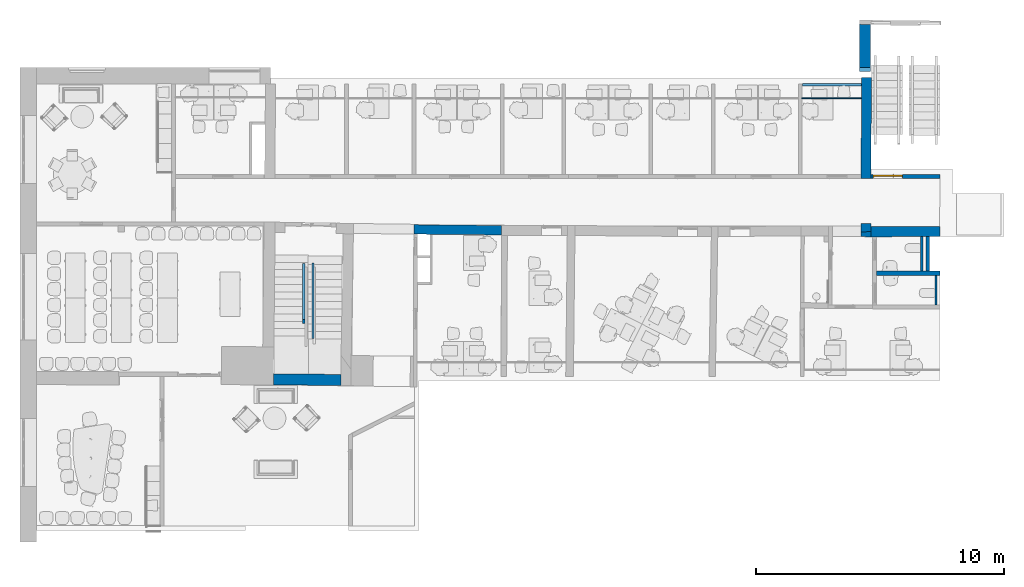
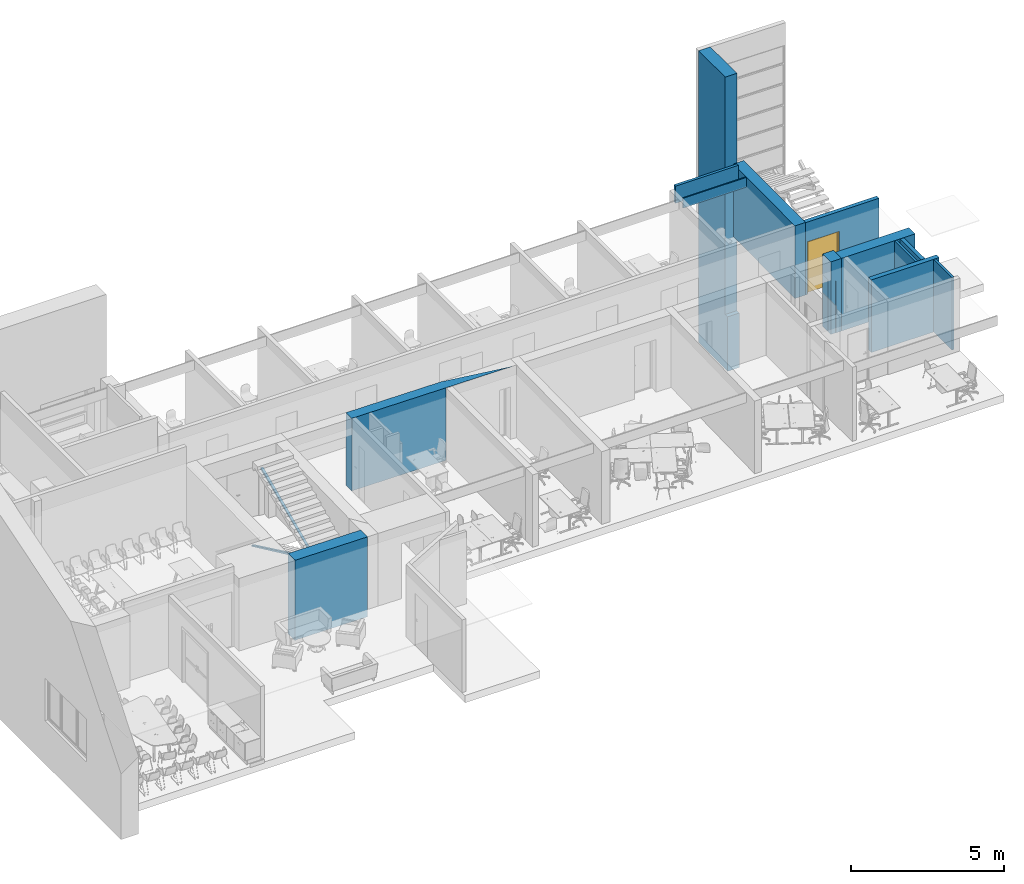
# One storey, part 7 of 19: 16 walls, 1 door, 2 openings.
"""IFC2X3 building model written with IfcOpenShell, lengths in millimetres."""

from ifc_helpers import new_model, entity, si_unit, converted_unit, derived_unit, direction, frame, frame_2d, origin, place, context, subcontext, project, spatial, polyline, rectangle, outline, extrude, clip, bounded_halfspace, faceted_brep, source, transform, mapped, material, material_list, layer, layer_set, layer_usage, type_object, type_shapes, element, fill, save


model = new_model("IFC2X3")

# Units and contexts
model_context = context("Model", 3, precision=0.01, world=origin(), true_north=direction((6.12303176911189e-17, 1.0)))
context_of_model = context(None, 3, precision=0.01, world=origin(), true_north=direction((6.12303176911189e-17, 1.0)))
body_context = subcontext(model_context, "Body", "Model", "MODEL_VIEW")
ifc_project = project(units=[si_unit("LENGTHUNIT", "METRE", prefix="MILLI"), si_unit("AREAUNIT", "SQUARE_METRE"), si_unit("VOLUMEUNIT", "CUBIC_METRE"), converted_unit("PLANEANGLEUNIT", "DEGREE", entity("IfcRatioMeasure", 0.0174532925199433), si_unit("PLANEANGLEUNIT", "RADIAN"), dimensions=[0, 0, 0, 0, 0, 0, 0]), si_unit("MASSUNIT", "GRAM", prefix="KILO"), derived_unit("MASSDENSITYUNIT", [(si_unit("MASSUNIT", "GRAM", prefix="KILO"), 1), (si_unit("LENGTHUNIT", "METRE"), -3)]), si_unit("TIMEUNIT", "SECOND"), si_unit("FREQUENCYUNIT", "HERTZ"), si_unit("THERMODYNAMICTEMPERATUREUNIT", "DEGREE_CELSIUS"), derived_unit("THERMALTRANSMITTANCEUNIT", [(si_unit("MASSUNIT", "GRAM", prefix="KILO"), 1), (si_unit("THERMODYNAMICTEMPERATUREUNIT", "KELVIN"), -1), (si_unit("TIMEUNIT", "SECOND"), -3)]), derived_unit("VOLUMETRICFLOWRATEUNIT", [(si_unit("LENGTHUNIT", "METRE"), 3), (si_unit("TIMEUNIT", "SECOND"), -1)]), si_unit("ELECTRICCURRENTUNIT", "AMPERE"), si_unit("ELECTRICVOLTAGEUNIT", "VOLT"), si_unit("POWERUNIT", "WATT"), si_unit("FORCEUNIT", "NEWTON", prefix="KILO"), si_unit("ILLUMINANCEUNIT", "LUX"), si_unit("LUMINOUSFLUXUNIT", "LUMEN"), si_unit("LUMINOUSINTENSITYUNIT", "CANDELA"), derived_unit("USERDEFINED", [(si_unit("MASSUNIT", "GRAM", prefix="KILO"), -1), (si_unit("LENGTHUNIT", "METRE"), -2), (si_unit("TIMEUNIT", "SECOND"), 3), (si_unit("LUMINOUSFLUXUNIT", "LUMEN"), 1)]), derived_unit("LINEARVELOCITYUNIT", [(si_unit("LENGTHUNIT", "METRE"), 1), (si_unit("TIMEUNIT", "SECOND"), -1)]), si_unit("PRESSUREUNIT", "PASCAL"), derived_unit("USERDEFINED", [(si_unit("LENGTHUNIT", "METRE"), -2), (si_unit("MASSUNIT", "GRAM", prefix="KILO"), 1), (si_unit("TIMEUNIT", "SECOND"), -2)])], contexts=[model_context, context_of_model])

# Site, building, storey
site_placement = place(None, frame((121442.264707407, 135347.995453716, -1800.0)))
site = spatial("IfcSite", under=ifc_project, at=site_placement, Name="Surface", CompositionType="ELEMENT")
building_placement = place(site_placement, origin())
building = spatial("IfcBuilding", under=site, at=building_placement, CompositionType="ELEMENT")
storey_placement = place(building_placement, frame((0.0, 0.0, 5125.0)))
storey = spatial("IfcBuildingStorey", under=building, at=storey_placement, Name="2 korrus", CompositionType="ELEMENT", Elevation=5125.00000000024)

# Wall
ifc_material_1 = material(Name="__Betoonelement")
ifc_layer_1 = layer(ifc_material_1, 400.0)
ifc_layer_set_1 = layer_set([ifc_layer_1], Name="Basic Wall:40_Betoon")
ifc_layer_usage_1 = layer_usage(ifc_layer_set_1, "AXIS2", "POSITIVE", -200.0)
wall_type_1 = type_object("IfcWallType", Name="Basic Wall:40_Betoon", PredefinedType="STANDARD", material=ifc_layer_set_1)
wall_1_placement = place(storey_placement, frame((-85485.5125478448, -115084.383582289, 0.0), z_axis=(0.0, 0.0, 1.0), x_axis=(-0.00513543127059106, -0.999986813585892, 0.0)))
element("IfcWallStandardCase", 1, at=wall_1_placement, inside=storey, type_object=wall_type_1, material=ifc_layer_usage_1, Name="Basic Wall:40_Betoon", ObjectType="Basic Wall:40_Betoon", context=body_context, shape_type="Clipping", body=[
    clip(extrude(outline(polyline([(4066.03431653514, -200.0), (4063.98011693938, 200.0), (0.0, 200.0), (0.0, -200.0), (4066.03431653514, -200.0)])), origin(), (0.0, 0.0, 1.0), 2897.0), bounded_halfspace(frame((4066.03431653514, -200.0, 2897.0), z_axis=(0.0, 0.0, -1.0), x_axis=(0.999986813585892, 0.00513543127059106, 0.0)), True, frame((4066.03431653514, -200.0, 2897.0)), polyline([(0.0, 0.0), (-0.157216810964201, 30.6137361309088), (-2.05419959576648, 400.0), (-230.225232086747, 400.0), (-228.322231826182, 29.4419949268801), (-4066.03431653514, 9.73342839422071), (-4066.03431653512, 0.0), (0.0, 0.0)]))),
])

# Wall, opening
ifc_layer_usage_2 = layer_usage(ifc_layer_set_1, "AXIS2", "NEGATIVE", 200.0)
wall_2_placement = place(storey_placement, frame((-85511.0476430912, -121509.356751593, 0.0), z_axis=(0.0, 0.0, 1.0), x_axis=(-0.00340942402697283, 0.999994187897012, 0.0)))
wall_2 = element("IfcWallStandardCase", 2, at=wall_2_placement, inside=storey, type_object=wall_type_1, material=ifc_layer_usage_2, Name="Basic Wall:40_Betoon", ObjectType="Basic Wall:40_Betoon", context=body_context, shape_type="Clipping", body=[
    clip(extrude(rectangle(XDim=535.000000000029, YDim=399.999999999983, at=frame_2d((267.500000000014, 1.23634436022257e-12), x_axis=(-1.0, 0.0))), origin(), (0.0, 0.0, 1.0), 2897.0), bounded_halfspace(frame((0.0, -200.0, 2897.0), z_axis=(0.0, 0.0, -1.0), x_axis=(-0.999994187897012, 0.00340942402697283, 0.0)), True, frame((0.0, -200.0, 2897.0)), polyline([(0.0, 0.0), (410.0, 0.0), (535.0, 0.0), (535.0, 400.0), (0.0, 400.0), (0.0, 0.0)]))),
])
opening_1_placement = place(wall_2_placement, origin())
element("IfcOpeningElement", 3, at=opening_1_placement, cuts=wall_2, Name="Basic Wall:40_Betoon", ObjectType="Recess", context=body_context, shape_type="SweptSolid", body=[
    extrude(rectangle(XDim=2069.99999999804, YDim=650.000000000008, at=frame_2d((-5.6843418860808e-13, 8.66862137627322e-12), x_axis=(1.0, 0.0))), frame((-317.343795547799, 17.3985168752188, 1032.49999999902), z_axis=(0.00340942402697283, 0.999994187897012, 0.0), x_axis=(0.0, 0.0, 1.0)), (0.0, 0.0, 1.0), 179.999999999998),
])

# Walls
ifc_layer_usage_3 = layer_usage(ifc_layer_set_1, "AXIS2", "NEGATIVE", 200.0)
wall_3_placement = place(storey_placement, frame((-85511.7465750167, -121304.357943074, 0.0), z_axis=(0.0, 0.0, 1.0), x_axis=(-0.00340942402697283, 0.999994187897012, 0.0)))
element("IfcWallStandardCase", 4, at=wall_3_placement, inside=storey, type_object=wall_type_1, material=ifc_layer_usage_3, Name="Basic Wall:40_Betoon", ObjectType="Basic Wall:40_Betoon", context=body_context, shape_type="SweptSolid", body=[
    extrude(rectangle(XDim=330.000000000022, YDim=399.999999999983, at=frame_2d((165.000000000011, 6.01119154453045e-12), x_axis=(-1.0, 0.0))), origin(), (0.0, 0.0, 1.0), 2067.49999999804),
])
ifc_material_2 = material(Name="NCS S 2570-R Syvä punainen, matta, ruisku")
ifc_material_list = material_list([ifc_material_2, ifc_material_1])
wall_type_2 = type_object("IfcWallType", Name="Basic Wall:44_Betoon", PredefinedType="NOTDEFINED")
wall_4_placement = place(storey_placement, frame((-85538.0641696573, -114839.161413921, -5495.57195566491), z_axis=(0.0, 0.0, 1.0), x_axis=(0.0, 1.0, 0.0)))
element("IfcWall", 5, at=wall_4_placement, inside=storey, type_object=wall_type_2, material=ifc_material_list, Name="Basic Wall:44_Betoon", ObjectType="Basic Wall:44_Betoon", context=body_context, shape_type="Brep", body=[
    faceted_brep([(0.0, -220.500000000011, 2170.57195566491), (0.0, -220.500000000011, 0.0), (1891.50825939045, -220.500000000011, 0.0), (1891.50825939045, -220.500000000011, 11640.6280282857), (157.24230158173, -220.500000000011, 11640.6280282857), (157.24230158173, -220.500000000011, 11026.2397991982), (157.24230158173, -220.500000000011, 5202.57195566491), (157.24230158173, -220.500000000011, 2170.57195566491), (0.0, 220.499999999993, 0.0), (0.0, 220.499999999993, 2170.57195566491), (157.24230158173, 220.499999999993, 2170.57195566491), (157.24230158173, 220.499999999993, 11640.6280282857), (1896.23794541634, 220.499999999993, 11640.6280282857), (1896.23794541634, 220.499999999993, 11638.0340480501), (1896.23794541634, 220.499999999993, 0.0), (157.24230158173, -220.08965099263, 2170.57195566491), (157.24230158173, 205.913091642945, 2170.57195566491), (0.0, 205.913091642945, 2170.57195566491)], [[[0, 1, 2, 3, 4, 5, 6, 7]], [[8, 9, 10, 11, 12, 13, 14]], [[2, 1, 8, 14]], [[4, 3, 12, 11]], [[2, 14, 13, 12, 3]], [[7, 15, 16, 10, 9, 17, 0]], [[0, 17, 9, 8, 1]], [[4, 11, 10, 16, 15, 7, 6, 5]]]),
])
ifc_layer_2 = layer(ifc_material_1, 410.0)
ifc_layer_set_2 = layer_set([ifc_layer_2], Name="Basic Wall:41_Betoon 2")
ifc_layer_usage_4 = layer_usage(ifc_layer_set_2, "AXIS2", "NEGATIVE", 205.0)
wall_type_3 = type_object("IfcWallType", Name="Basic Wall:41_Betoon 2", PredefinedType="STANDARD", material=ifc_layer_set_2)
wall_5_placement = place(storey_placement, frame((-82525.2814481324, -121294.175757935, 0.0), z_axis=(0.0, 0.0, 1.0), x_axis=(-0.999994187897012, -0.00340942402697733, 0.0)))
element("IfcWallStandardCase", 6, at=wall_5_placement, inside=storey, type_object=wall_type_3, material=ifc_layer_usage_4, Name="Basic Wall:41_Betoon 2", ObjectType="Basic Wall:41_Betoon 2", context=body_context, shape_type="Clipping", body=[
    clip(extrude(outline(polyline([(2786.48248462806, -205.0), (2786.48248462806, 205.0), (1.3978719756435, 205.0), (0.0, -205.0), (2786.48248462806, -205.0)])), origin(), (0.0, 0.0, 1.0), 2897.0), bounded_halfspace(frame((0.0, -205.0, 2897.0), z_axis=(0.0, 0.0, -1.0), x_axis=(0.00340942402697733, 0.999994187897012, 0.0)), True, frame((0.0, -205.0, 2897.0)), polyline([(0.0, 0.0), (2786.48248462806, 0.0), (2786.48248462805, 410.0), (1.39787197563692, 410.0), (0.0, 0.0)]))),
])
ifc_layer_3 = layer(ifc_material_1, 380.0)
ifc_layer_set_3 = layer_set([ifc_layer_3], Name="Basic Wall:38_Betoon 2")
wall_type_4 = type_object("IfcWallType", Name="Basic Wall:38_Betoon 2", PredefinedType="STANDARD", material=ifc_layer_set_3)
wall_6_placement = place(storey_placement, frame((-97714.9033557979, -121262.43313085, 0.0), z_axis=(0.0, 0.0, 1.0), x_axis=(-0.999962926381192, 0.00861079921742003, 0.0)))
element("IfcWall", 7, at=wall_6_placement, inside=storey, type_object=wall_type_4, Name="Basic Wall:38_Betoon 2", ObjectType="Basic Wall:38_Betoon 2", context=body_context, shape_type="Brep", body=[
    faceted_brep([(2471.56004318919, -190.0, 0.0), (6013.6683213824, -190.0, 0.0), (6013.6683213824, -190.0, 2897.0), (2456.96813620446, -190.0, 2897.0), (2456.96813620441, -190.0, 2890.0), (2471.56004318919, -190.0, 2890.0), (2470.30259338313, 190.0, 0.0), (2470.30259338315, 190.0, 2890.0), (0.0, 190.0, 2890.0), (0.0, 190.0, 2897.0), (5861.69806417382, 190.0, 2897.0), (6011.70007627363, 190.0, 2897.0), (6011.70007627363, 190.0, 0.0)], [[[0, 1, 2, 3, 4, 5]], [[6, 7, 8, 9, 10, 11, 12]], [[1, 0, 6, 12]], [[2, 1, 12, 11]], [[4, 8, 7, 5]], [[0, 5, 7, 6]], [[4, 3, 9, 8]], [[3, 2, 11, 10, 9]]]),
])
ifc_layer_4 = layer(ifc_material_1, 180.0)
ifc_layer_set_4 = layer_set([ifc_layer_4], Name="Basic Wall:18_Betoon 3")
ifc_layer_usage_5 = layer_usage(ifc_layer_set_4, "AXIS2", "POSITIVE", -90.0)
wall_type_5 = type_object("IfcWallType", Name="Basic Wall:18_Betoon 3", PredefinedType="STANDARD", material=ifc_layer_set_4)
wall_7_placement = place(storey_placement, frame((-82525.9803800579, -122972.367067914, 0.0), z_axis=(0.0, 0.0, 1.0), x_axis=(-1.0, 0.0, 0.0)))
element("IfcWallStandardCase", 8, at=wall_7_placement, inside=storey, type_object=wall_type_5, material=ifc_layer_usage_5, Name="Basic Wall:18_Betoon 3", ObjectType="Basic Wall:18_Betoon 3", context=body_context, shape_type="Clipping", body=[
    clip(extrude(rectangle(XDim=2559.55635023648, YDim=179.999999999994, at=frame_2d((1279.77817511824, 0.0), x_axis=(-1.0, 0.0))), origin(), (0.0, 0.0, 1.0), 2897.0), bounded_halfspace(frame((520.0, -90.0, 2897.0), z_axis=(0.0, 0.0, -1.0), x_axis=(0.0, 1.0, 0.0)), True, frame((520.0, -90.0, 2897.0)), polyline([(0.0, 0.0), (2039.55635023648, 0.0), (2039.55635023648, 180.0), (0.0, 180.0), (-520.0, 180.0), (-520.0, 150.748650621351), (0.0, 150.748650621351), (0.0, 0.0)]))),
])
ifc_layer_5 = layer(ifc_material_1, 450.0)
ifc_layer_set_5 = layer_set([ifc_layer_5], Name="Basic Wall:45_Betoon")
wall_type_6 = type_object("IfcWallType", Name="Basic Wall:45_Betoon", PredefinedType="STANDARD", material=ifc_layer_set_5)
wall_8_placement = place(storey_placement, frame((-109379.592492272, -127250.961713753, -307.126025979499), z_axis=(0.0, 0.0, 1.0), x_axis=(0.999951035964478, -0.00989574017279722, 0.0)))
element("IfcWall", 9, at=wall_8_placement, inside=storey, type_object=wall_type_6, Name="Basic Wall:45_Betoon", ObjectType="Basic Wall:45_Betoon", context=body_context, shape_type="Brep", body=[
    faceted_brep([(0.0, -225.0, 3204.1260259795), (0.0, -225.0, 3197.1260259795), (0.0, -225.0, 0.0), (88.8062412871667, -225.0, 0.0), (88.8062412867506, -225.0, 14.1260259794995), (2722.36429015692, -225.0, 14.126025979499), (2722.36429015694, -225.0, 307.126025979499), (2722.36429015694, -225.0, 3197.1260259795), (2722.36429015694, -225.0, 3204.1260259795), (2717.91098902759, 225.0, 0.0), (0.323698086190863, 225.0, 0.0), (0.323698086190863, 225.0, 3204.1260259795), (2717.91098902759, 225.0, 3204.1260259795), (2718.45468304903, 170.06046132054, 0.0), (85.1386676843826, 145.603306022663, 0.0), (0.244563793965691, 114.988748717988, 3204.1260259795), (0.290677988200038, 179.095977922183, 3204.1260259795), (2718.73344916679, 141.891525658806, 3204.1260259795), (2718.09909626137, 205.992020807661, 3204.1260259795), (2718.45468304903, 170.06046132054, 14.126025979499), (85.1386676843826, 145.603306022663, 14.126025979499), (86.5795907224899, 0.0, 14.126025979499), (2720.13763959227, 0.0, 14.126025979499)], [[[0, 1, 2, 3, 4, 5, 6, 7, 8]], [[9, 10, 11, 12]], [[10, 9, 13, 14, 3, 2]], [[2, 1, 0, 15, 16, 11, 10]], [[12, 11, 16, 15, 17, 18]], [[0, 8, 17, 15]], [[19, 20, 14, 13]], [[21, 22, 5, 4]], [[21, 20, 19, 22]], [[20, 21, 4, 3, 14]], [[9, 12, 18, 17, 8, 7, 6, 5, 22, 19, 13]]]),
])
ifc_layer_6 = layer(ifc_material_1, 100.0)
ifc_layer_set_6 = layer_set([ifc_layer_6], Name="Basic Wall:10_Betoon")
ifc_layer_usage_6 = layer_usage(ifc_layer_set_6, "AXIS2", "NEGATIVE", 50.0)
wall_type_7 = type_object("IfcWallType", Name="Basic Wall:10_Betoon", PredefinedType="STANDARD", material=ifc_layer_set_6)
wall_9_placement = place(storey_placement, frame((-88058.8585743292, -115371.920628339, 2365.0)))
element("IfcWallStandardCase", 10, at=wall_9_placement, inside=storey, type_object=wall_type_7, material=ifc_layer_usage_6, Name="Basic Wall:10_Betoon", ObjectType="Basic Wall:10_Betoon", context=body_context, shape_type="SweptSolid", body=[
    extrude(outline(polyline([(2371.60996800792, -50.0), (2372.12351790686, 50.0), (0.0, 50.0), (0.0, -50.0), (2371.60996800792, -50.0)])), origin(), (0.0, 0.0, 1.0), 685.0),
])

# Wall, opening, door
ifc_material_3 = material(Name="Plaster")
ifc_layer_7 = layer(ifc_material_3, 10.0)
ifc_material_4 = material(Name="EST. Müüritis. Väikeplokk. Kergkruusplokk")
ifc_layer_8 = layer(ifc_material_4, 130.0)
ifc_layer_9 = layer(ifc_material_3, 10.0)
ifc_layer_set_7 = layer_set([ifc_layer_7, ifc_layer_8, ifc_layer_9], Name="Basic Wall:15_FIBO")
ifc_layer_usage_7 = layer_usage(ifc_layer_set_7, "AXIS2", "POSITIVE", -75.0)
wall_type_8 = type_object("IfcWallType", Name="Basic Wall:15_FIBO", PredefinedType="STANDARD", material=ifc_layer_set_7)
wall_10_placement = place(storey_placement, frame((-85306.3831680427, -119073.887841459, 0.0)))
wall_10 = element("IfcWallStandardCase", 11, at=wall_10_placement, inside=storey, type_object=wall_type_8, material=ifc_layer_usage_7, Name="Basic Wall:15_FIBO", ObjectType="Basic Wall:15_FIBO", context=body_context, shape_type="SweptSolid", body=[
    extrude(outline(polyline([(0.0, -75.0), (2780.40278798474, -75.0), (2780.40278798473, 75.0), (0.770324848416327, 75.0), (0.0, -75.0)])), origin(), (0.0, 0.0, 1.0), 2890.0),
])
opening_2_placement = place(wall_10_placement, frame((80.4027879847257, -75.0, 0.0)))
opening_2 = element("IfcOpeningElement", 12, at=opening_2_placement, cuts=wall_10, Name="sma_D02:1200 x 2100mm SU-11 Tuletokke:1", ObjectType="Opening", context=body_context, shape_type="SweptSolid", body=[
    extrude(rectangle(XDim=2099.99999999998, YDim=1200.0, at=frame_2d((1049.99999999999, 600.000000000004), x_axis=(1.0, 0.0))), frame((0.0, 0.0, 0.0), z_axis=(0.0, 1.0, 0.0), x_axis=(0.0, 0.0, 1.0)), (0.0, 0.0, 1.0), 150.0),
])
ifc_material_5 = material(Name="Metal - Aluminium")
door_style = type_object("IfcDoorStyle", Name="1200 x 2100mm SU-11 Tuletokke", ConstructionType="NOTDEFINED", OperationType="NOTDEFINED", ParameterTakesPrecedence=False, Sizeable=False, material=ifc_material_5)
shared_shape = source(origin(), body_context, "Body", "Brep", [
    faceted_brep([(745.260051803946, 40.0, 1100.0), (650.260051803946, 40.0, 1100.0), (650.260051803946, 35.0, 1100.0), (770.260051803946, 35.0, 1100.0), (770.260051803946, 78.0, 1100.0), (745.260051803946, 78.0, 1100.0), (745.260051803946, 40.0, 1075.0), (745.260051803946, 78.0, 1075.0), (770.260051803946, 78.0, 1075.0), (770.260051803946, 35.0, 1075.0), (650.260051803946, 35.0, 1075.0), (650.260051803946, 40.0, 1075.0)], [[[0, 1, 2, 3, 4, 5]], [[6, 7, 8, 9, 10, 11]], [[5, 7, 6, 0]], [[4, 8, 7, 5]], [[3, 9, 8, 4]], [[2, 10, 9, 3]], [[1, 11, 10, 2]], [[0, 6, 11, 1]]]),
    faceted_brep([(732.760051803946, 78.0, 1125.0), (782.760051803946, 78.0, 1125.0), (782.760051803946, 80.0, 1125.0), (732.760051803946, 80.0, 1125.0), (732.760051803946, 78.0, 1005.0), (732.760051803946, 80.0, 1005.0), (782.760051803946, 80.0, 1005.0), (782.760051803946, 78.0, 1005.0)], [[[0, 1, 2, 3]], [[4, 5, 6, 7]], [[3, 5, 4, 0]], [[2, 6, 5, 3]], [[1, 7, 6, 2]], [[0, 4, 7, 1]]]),
    faceted_brep([(745.260051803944, 170.0, 1100.0), (745.260051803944, 132.0, 1100.0), (770.260051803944, 132.0, 1100.0), (770.260051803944, 175.0, 1100.0), (650.260051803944, 175.0, 1100.0), (650.260051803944, 170.0, 1100.0), (745.260051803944, 170.0, 1075.0), (650.260051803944, 170.0, 1075.0), (650.260051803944, 175.0, 1075.0), (770.260051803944, 175.0, 1075.0), (770.260051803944, 132.0, 1075.0), (745.260051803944, 132.0, 1075.0)], [[[0, 1, 2, 3, 4, 5]], [[6, 7, 8, 9, 10, 11]], [[1, 0, 6, 11]], [[2, 1, 11, 10]], [[3, 2, 10, 9]], [[4, 3, 9, 8]], [[5, 4, 8, 7]], [[0, 5, 7, 6]]]),
    faceted_brep([(732.760051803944, 132.0, 1125.0), (732.760051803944, 130.0, 1125.0), (782.760051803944, 130.0, 1125.0), (782.760051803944, 132.0, 1125.0), (732.760051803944, 132.0, 1005.0), (782.760051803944, 132.0, 1005.0), (782.760051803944, 130.0, 1005.0), (732.760051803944, 130.0, 1005.0)], [[[0, 1, 2, 3]], [[4, 5, 6, 7]], [[1, 0, 4, 7]], [[2, 1, 7, 6]], [[3, 2, 6, 5]], [[0, 3, 5, 4]]]),
    faceted_brep([(-67.2399481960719, 40.0, 0.0), (-67.2399481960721, 130.0, 0.0), (-42.2399481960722, 130.0, 0.0), (-42.239948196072, 80.0, 0.0), (-27.239948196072, 80.0, 0.0), (-27.2399481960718, 40.0, 0.0), (-27.2399481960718, 40.0, 2060.0), (1092.76005180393, 40.0, 2060.0), (1092.76005180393, 40.0, 0.0), (1132.76005180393, 40.0, 0.0), (1132.76005180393, 40.0, 2100.0), (-67.2399481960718, 40.0, 2100.0), (-27.2399481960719, 80.0, 2060.0), (-42.2399481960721, 80.0, 2075.0), (1107.76005180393, 80.0, 2075.0), (1107.76005180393, 80.0, 0.0), (1092.76005180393, 80.0, 0.0), (1092.76005180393, 80.0, 2060.0), (-42.239948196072, 130.0, 2075.0), (-67.2399481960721, 130.0, 2100.0), (1132.76005180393, 130.0, 2100.0), (1132.76005180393, 130.0, 0.0), (1107.76005180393, 130.0, 0.0), (1107.76005180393, 130.0, 2075.0)], [[[0, 1, 2, 3, 4, 5]], [[5, 6, 7, 8, 9, 10, 11, 0]], [[4, 12, 6, 5]], [[3, 13, 14, 15, 16, 17, 12, 4]], [[2, 18, 13, 3]], [[1, 19, 20, 21, 22, 23, 18, 2]], [[0, 11, 19, 1]], [[10, 9, 21, 20]], [[9, 8, 16, 15, 22, 21]], [[17, 16, 8, 7]], [[23, 22, 15, 14]], [[12, 17, 7, 6]], [[18, 23, 14, 13]], [[11, 10, 20, 19]]]),
    faceted_brep([(1107.76005180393, 80.0, 20.0), (1107.76005180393, 80.0, 2075.0), (832.760051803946, 80.0, 2075.0), (832.760051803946, 80.0, 20.0), (1107.76005180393, 130.0, 20.0), (832.760051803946, 130.0, 20.0), (832.760051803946, 130.0, 2075.0), (1107.76005180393, 130.0, 2075.0)], [[[0, 1, 2, 3]], [[4, 5, 6, 7]], [[3, 5, 4, 0]], [[2, 6, 5, 3]], [[1, 7, 6, 2]], [[0, 4, 7, 1]]]),
    faceted_brep([(832.760051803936, 80.0, 2075.0), (-42.2399481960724, 80.0, 2075.0), (-42.2399481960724, 80.0, 20.0), (832.760051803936, 80.0, 20.0), (832.760051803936, 130.0, 2075.0), (832.760051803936, 130.0, 20.0), (-42.2399481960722, 130.0, 20.0), (-42.2399481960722, 130.0, 2075.0)], [[[0, 1, 2, 3]], [[4, 5, 6, 7]], [[3, 5, 4, 0]], [[2, 6, 5, 3]], [[1, 7, 6, 2]], [[0, 4, 7, 1]]]),
])
type_shapes(door_style, [shared_shape])
door_placement = place(opening_2_placement, frame((67.2399481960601, 0.0, 0.0)))
door = element("IfcDoor", 13, at=door_placement, inside=storey, type_object=door_style, material=ifc_material_5, Name="sma_D02:1200 x 2100mm SU-11 Tuletokke", ObjectType="1200 x 2100mm SU-11 Tuletokke", OverallHeight=2099.99999999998, OverallWidth=1200.0, context=body_context, shape_type="MappedRepresentation", body=[
    mapped(shared_shape, transform((0.0, 0.0, 0.0), scale=1.0)),
])
fill(opening_2, door)

# Walls
ifc_layer_usage_8 = layer_usage(ifc_layer_set_7, "AXIS2", "NEGATIVE", 75.0)
wall_11_placement = place(storey_placement, frame((-83020.980380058, -121500.611298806, 0.0), z_axis=(0.0, 0.0, 1.0), x_axis=(0.0, -1.0, 0.0)))
element("IfcWallStandardCase", 14, at=wall_11_placement, inside=storey, type_object=wall_type_8, material=ifc_layer_usage_8, Name="Basic Wall:15_FIBO", ObjectType="Basic Wall:15_FIBO", context=body_context, shape_type="SweptSolid", body=[
    extrude(outline(polyline([(1381.75576910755, -75.0), (1381.75576910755, 75.0), (0.0, 75.0), (0.511416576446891, -75.0), (1381.75576910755, -75.0)])), origin(), (0.0, 0.0, 1.0), 2890.0),
])
ifc_material_6 = material(Name="Metal - Stud Layer")
ifc_layer_10 = layer(ifc_material_6, 30.0)
ifc_material_7 = material(Name="Gypsum Wall Board")
ifc_layer_11 = layer(ifc_material_7, 13.0)
ifc_layer_set_8 = layer_set([ifc_layer_10, ifc_layer_11], Name="Basic Wall:Kipssirm 1 kordne")
ifc_layer_usage_9 = layer_usage(ifc_layer_set_8, "AXIS2", "POSITIVE", -21.5)
wall_type_9 = type_object("IfcWallType", Name="Basic Wall:Kipssirm 1 kordne", PredefinedType="STANDARD", material=ifc_layer_set_8)
wall_12_placement = place(storey_placement, frame((-88085.7565439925, -115928.952432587, 2500.0)))
element("IfcWallStandardCase", 15, at=wall_12_placement, inside=storey, type_object=wall_type_9, material=ifc_layer_usage_9, Name="Basic Wall:Kipssirm 1 kordne", ObjectType="Basic Wall:Kipssirm 1 kordne", context=body_context, shape_type="SweptSolid", body=[
    extrude(outline(polyline([(2395.79366312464, -21.5000000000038), (2396.01448958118, 21.5000000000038), (0.0, 21.5000000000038), (0.0, -21.5000000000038), (2395.79366312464, -21.5000000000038)])), origin(), (0.0, 0.0, 1.0), 390.0),
])
ifc_layer_12 = layer(ifc_material_2, 1.0)
ifc_layer_13 = layer(ifc_material_1, 90.0)
ifc_layer_set_9 = layer_set([ifc_layer_12, ifc_layer_13], Name="Basic Wall:8_Betoon 2")
wall_type_10 = type_object("IfcWallType", Name="Basic Wall:8_Betoon 2", PredefinedType="STANDARD", material=ifc_layer_set_9)
wall_13_placement = place(storey_placement, frame((-107789.895723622, -122564.059868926, 1712.99515752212), z_axis=(0.0, 0.0, 1.0), x_axis=(0.0, -1.0, 0.0)))
element("IfcWall", 16, at=wall_13_placement, inside=storey, type_object=wall_type_10, Name="Basic Wall:8_Betoon 2", ObjectType="Basic Wall:8_Betoon 2", context=body_context, shape_type="Brep", body=[
    faceted_brep([(0.0, -45.4999999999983, 1278.35433610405), (3035.97077020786, -45.4999999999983, 0.0), (3035.97077020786, -45.4999999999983, 21.7006859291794), (0.0, -45.4999999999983, 1369.54949233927), (0.0, 45.4999999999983, 1278.35433610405), (0.0, 45.4999999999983, 1369.54949233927), (3035.97077020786, 45.4999999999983, 21.7006859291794), (3035.97077020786, 45.4999999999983, 0.0)], [[[0, 1, 2, 3]], [[4, 5, 6, 7]], [[1, 0, 4, 7]], [[2, 1, 7, 6]], [[3, 2, 6, 5]], [[0, 3, 5, 4]]]),
])
wall_14_placement = place(storey_placement, frame((-108158.699843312, -125625.155094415, 76.5879426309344), z_axis=(0.0, 0.0, 1.0), x_axis=(0.0, 1.0, 0.0)))
element("IfcWall", 17, at=wall_14_placement, inside=storey, type_object=wall_type_10, Name="Basic Wall:8_Betoon 2", ObjectType="Basic Wall:8_Betoon 2", context=body_context, shape_type="Brep", body=[
    faceted_brep([(0.0, -45.4999999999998, 1415.69642008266), (3035.97077020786, -45.5000000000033, 0.0), (3035.97077020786, -45.5000000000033, 55.4426279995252), (0.0, -45.4999999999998, 1500.24266301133), (0.0, 45.4999999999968, 1415.69642008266), (0.0, 45.4999999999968, 1500.24266301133), (3035.97077020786, 45.4999999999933, 55.4426279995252), (3035.97077020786, 45.4999999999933, 0.0)], [[[0, 1, 2, 3]], [[4, 5, 6, 7]], [[1, 0, 4, 7]], [[2, 1, 7, 6]], [[3, 2, 6, 5]], [[0, 3, 5, 4]]]),
])
ifc_material_8 = material(Name="EST. Ehitusplaat. Kipsplaat")
ifc_layer_14 = layer(ifc_material_8, 12.5)
ifc_material_9 = material(Name="EST. Metall. Teras. Tsingitud")
ifc_layer_15 = layer(ifc_material_9, 75.0)
ifc_layer_set_10 = layer_set([ifc_layer_14, ifc_layer_15], Name="Basic Wall:WC_tagasein_ metallkarkassein 100(12.5+75)")
ifc_layer_usage_10 = layer_usage(ifc_layer_set_10, "AXIS2", "POSITIVE", -43.75)
wall_type_11 = type_object("IfcWallType", Name="Basic Wall:WC_tagasein_ metallkarkassein 100(12.5+75)", PredefinedType="STANDARD", material=ifc_layer_set_10)
wall_15_placement = place(storey_placement, frame((-83259.7303800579, -121501.531848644, 0.0), z_axis=(0.0, 0.0, 1.0), x_axis=(0.0, -1.0, 0.0)))
element("IfcWallStandardCase", 18, at=wall_15_placement, inside=storey, type_object=wall_type_11, material=ifc_layer_usage_10, Name="Basic Wall:WC_tagasein_ metallkarkassein 100(12.5+75)", ObjectType="Basic Wall:WC_tagasein_ metallkarkassein 100(12.5+75)", context=body_context, shape_type="SweptSolid", body=[
    extrude(outline(polyline([(1380.83521926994, -43.750000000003), (1380.83521926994, 43.750000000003), (0.0, 43.750000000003), (0.298326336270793, -43.750000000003), (1380.83521926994, -43.750000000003)])), origin(), (0.0, 0.0, 1.0), 2890.0),
])
ifc_layer_usage_11 = layer_usage(ifc_layer_set_10, "AXIS2", "POSITIVE", -43.75)
wall_16_placement = place(storey_placement, frame((-82689.7303800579, -123062.367067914, 0.0), z_axis=(0.0, 0.0, 1.0), x_axis=(0.0, -1.0, 0.0)))
element("IfcWallStandardCase", 19, at=wall_16_placement, inside=storey, type_object=wall_type_11, material=ifc_layer_usage_11, Name="Basic Wall:WC_tagasein_ metallkarkassein 100(12.5+75)", ObjectType="Basic Wall:WC_tagasein_ metallkarkassein 100(12.5+75)", context=body_context, shape_type="SweptSolid", body=[
    extrude(rectangle(XDim=1192.5101243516, YDim=87.5000000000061, at=frame_2d((596.255062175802, 0.0), x_axis=(-1.0, 0.0))), origin(), (0.0, 0.0, 1.0), 2890.0),
])

save(model, "model.ifc")
